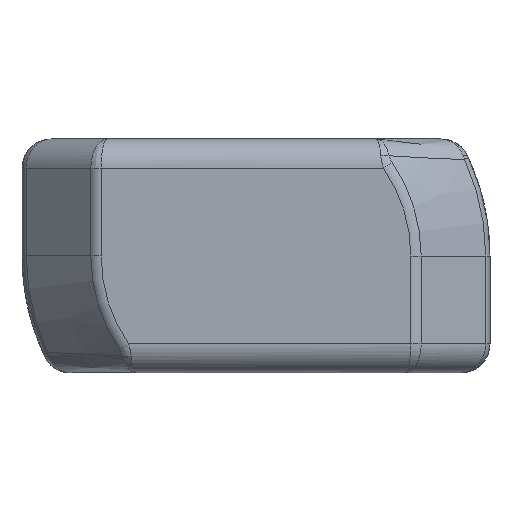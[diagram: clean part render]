
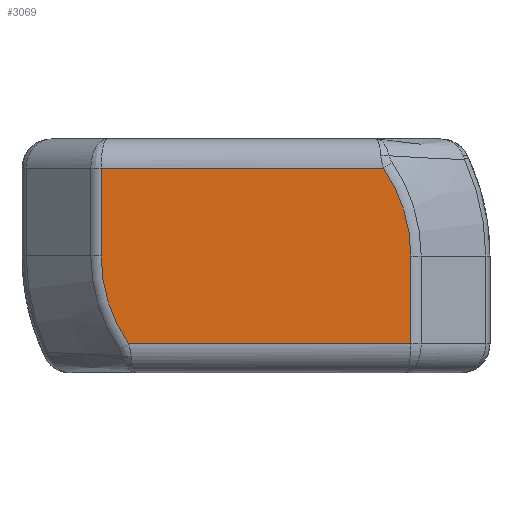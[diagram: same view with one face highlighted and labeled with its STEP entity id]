
A CAD part, front view. The second image highlights one B-rep face of the part: STEP entity #3069.
In plain terms, the highlighted planar face has unit normal (0, -1, 0).
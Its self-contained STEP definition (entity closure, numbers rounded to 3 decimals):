
#251 = CIRCLE ( 'NONE', #5030, 5.293 ) ;
#355 = CARTESIAN_POINT ( 'NONE',  ( 0., 0., 0. ) ) ;
#475 = DIRECTION ( 'NONE',  ( 0., 1., 0. ) ) ;
#523 = CARTESIAN_POINT ( 'NONE',  ( -5.293, 0., 0. ) ) ;
#802 = AXIS2_PLACEMENT_3D ( 'NONE', #4358, #475, #1735 ) ;
#1201 = ORIENTED_EDGE ( 'NONE', *, *, #6866, .T. ) ;
#1279 = DIRECTION ( 'NONE',  ( 0., 0., -1. ) ) ;
#1291 = CARTESIAN_POINT ( 'NONE',  ( 0., 0., 0. ) ) ;
#1336 = DIRECTION ( 'NONE',  ( 0., 0., 1. ) ) ;
#1539 = EDGE_CURVE ( 'NONE', #8317, #6473, #7152, .T. ) ;
#1735 = DIRECTION ( 'NONE',  ( 1., 0., 0. ) ) ;
#1923 = CARTESIAN_POINT ( 'NONE',  ( -5.293, 0., 0. ) ) ;
#2072 = ORIENTED_EDGE ( 'NONE', *, *, #6893, .T. ) ;
#2683 = EDGE_CURVE ( 'NONE', #4141, #6286, #7809, .T. ) ;
#2769 = CARTESIAN_POINT ( 'NONE',  ( 5.293, 0., -3. ) ) ;
#3069 = ADVANCED_FACE ( 'NONE', ( #3153 ), #8312, .F. ) ;
#3153 = FACE_OUTER_BOUND ( 'NONE', #8307, .T. ) ;
#3550 = DIRECTION ( 'NONE',  ( 1., 0., 0. ) ) ;
#3907 = DIRECTION ( 'NONE',  ( 0., -1., 0. ) ) ;
#3974 = LINE ( 'NONE', #5388, #7356 ) ;
#4066 = VECTOR ( 'NONE', #5636, 1000. ) ;
#4141 = VERTEX_POINT ( 'NONE', #4510 ) ;
#4244 = LINE ( 'NONE', #6264, #5016 ) ;
#4358 = CARTESIAN_POINT ( 'NONE',  ( 0., 0., 0. ) ) ;
#4435 = CARTESIAN_POINT ( 'NONE',  ( 5.293, 0., 0. ) ) ;
#4510 = CARTESIAN_POINT ( 'NONE',  ( -5.293, 0., 3. ) ) ;
#4867 = ORIENTED_EDGE ( 'NONE', *, *, #2683, .T. ) ;
#4911 = VECTOR ( 'NONE', #1279, 1000. ) ;
#5016 = VECTOR ( 'NONE', #3550, 1000. ) ;
#5030 = AXIS2_PLACEMENT_3D ( 'NONE', #1291, #3907, #1336 ) ;
#5060 = CARTESIAN_POINT ( 'NONE',  ( 4.361, 0., 3. ) ) ;
#5280 = ORIENTED_EDGE ( 'NONE', *, *, #5720, .T. ) ;
#5388 = CARTESIAN_POINT ( 'NONE',  ( 0., 0., 3. ) ) ;
#5636 = DIRECTION ( 'NONE',  ( 0., 0., 1. ) ) ;
#5720 = EDGE_CURVE ( 'NONE', #6286, #6944, #251, .T. ) ;
#6235 = VERTEX_POINT ( 'NONE', #5060 ) ;
#6264 = CARTESIAN_POINT ( 'NONE',  ( 0., 0., -3. ) ) ;
#6286 = VERTEX_POINT ( 'NONE', #523 ) ;
#6400 = EDGE_CURVE ( 'NONE', #6235, #4141, #3974, .T. ) ;
#6473 = VERTEX_POINT ( 'NONE', #7579 ) ;
#6866 = EDGE_CURVE ( 'NONE', #6473, #6235, #8179, .T. ) ;
#6893 = EDGE_CURVE ( 'NONE', #6944, #8317, #4244, .T. ) ;
#6944 = VERTEX_POINT ( 'NONE', #8196 ) ;
#7152 = LINE ( 'NONE', #4435, #4066 ) ;
#7356 = VECTOR ( 'NONE', #7884, 1000. ) ;
#7556 = DIRECTION ( 'NONE',  ( 0., 0., 1. ) ) ;
#7579 = CARTESIAN_POINT ( 'NONE',  ( 5.293, 0., 0. ) ) ;
#7580 = ORIENTED_EDGE ( 'NONE', *, *, #6400, .T. ) ;
#7643 = AXIS2_PLACEMENT_3D ( 'NONE', #355, #7645, #7556 ) ;
#7645 = DIRECTION ( 'NONE',  ( 0., -1., 0. ) ) ;
#7809 = LINE ( 'NONE', #1923, #4911 ) ;
#7884 = DIRECTION ( 'NONE',  ( -1., 0., 0. ) ) ;
#8060 = ORIENTED_EDGE ( 'NONE', *, *, #1539, .T. ) ;
#8179 = CIRCLE ( 'NONE', #7643, 5.293 ) ;
#8196 = CARTESIAN_POINT ( 'NONE',  ( -4.361, 0., -3. ) ) ;
#8307 = EDGE_LOOP ( 'NONE', ( #5280, #2072, #8060, #1201, #7580, #4867 ) ) ;
#8312 = PLANE ( 'NONE',  #802 ) ;
#8317 = VERTEX_POINT ( 'NONE', #2769 ) ;
